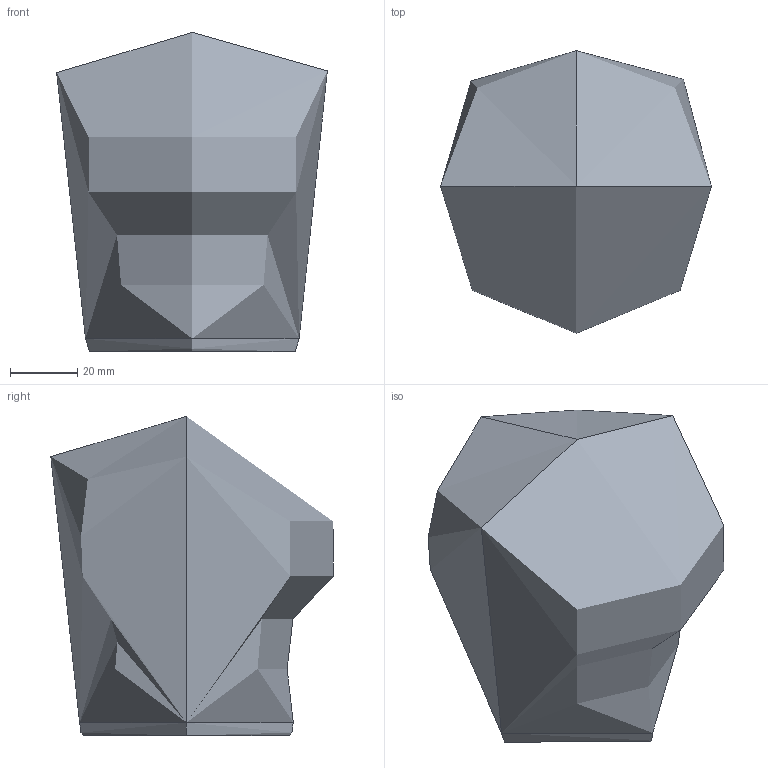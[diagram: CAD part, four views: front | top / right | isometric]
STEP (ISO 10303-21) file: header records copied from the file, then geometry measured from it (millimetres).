
FILE_DESCRIPTION(/* description */ (''),/* implementation_level */ '2;1');
FILE_NAME(/* name */ 'Pebosto peso L',/* time_stamp */ '2025-07-18T11:42:44+02:00',/* author */ (''),/* organization */ (''),/* preprocessor_version */ 'ST-DEVELOPER v16.5',/* originating_system */ 'Rhino 7.37',/* authorisation */ '');
FILE_SCHEMA (('AUTOMOTIVE_DESIGN'));
Length unit declared in the file: millimetre
Products named in the file (1): Document
Bounding box: 80.56 x 84.05 x 95 mm (x, y, z)
Volume: 260712.7 mm3; surface area: 32763.1 mm2
Topology: 1 solids, 1 shells, 8 faces, 20 edges, 8 vertices
Faces by surface type: bspline 8
Entity records: 1519 total; most frequent: CARTESIAN_POINT 1406, ORIENTED_EDGE 28, EDGE_CURVE 14, ADVANCED_FACE 8, FACE_OUTER_BOUND 8, EDGE_LOOP 8, VERTEX_POINT 8, B_SPLINE_CURVE_WITH_KNOTS 5
